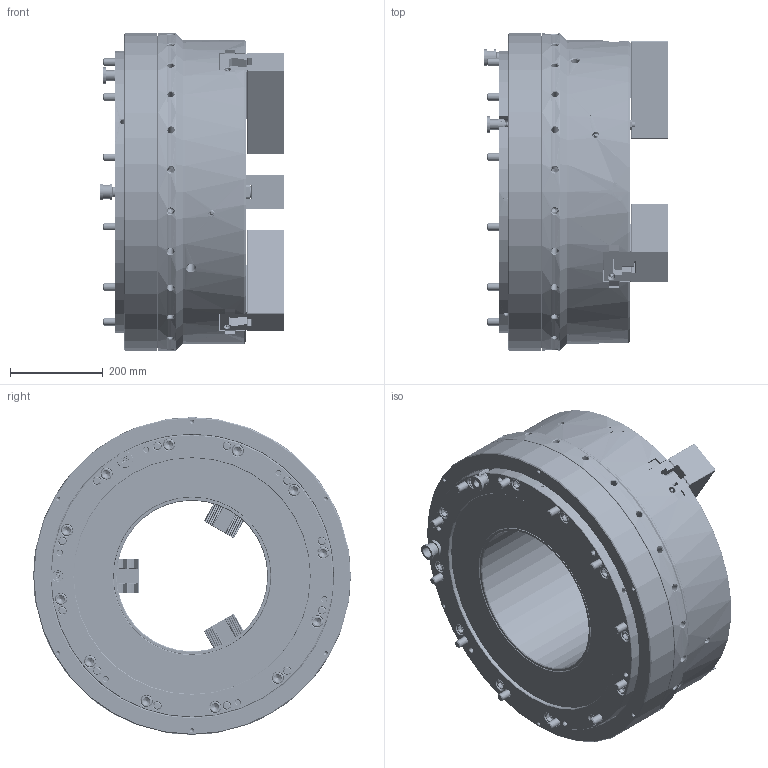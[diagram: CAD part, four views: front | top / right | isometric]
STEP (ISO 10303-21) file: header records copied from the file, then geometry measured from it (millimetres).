
FILE_DESCRIPTION (( 'STEP AP214' ), '1' );
FILE_NAME ('UPR650A325_HCL.STEP', '2025-12-26T01:02:55', ( '' ), ( '' ), 'SwSTEP 2.0', 'SolidWorks 2022', '' );
FILE_SCHEMA (( 'AUTOMOTIVE_DESIGN' ));
Length unit declared in the file: millimetre
Products named in the file (5): UPR650A325_HCL; 0030124060; 61P446153; 61P858712; UPR650A325_本体
Assembly tree (16 placements, depth 2):
  UPR650A325_HCL
    61P858712  x3
    61P446153  x6
    0030124060  x6
    UPR650A325_本体
Bounding box: 397.21 x 685 x 685 mm (x, y, z)
Volume: 75582779.6 mm3; surface area: 3369881.8 mm2
Topology: 17 solids, 37 shells, 11365 faces, 31589 edges, 20645 vertices
Faces by surface type: plane 6083, cylinder 3084, bspline 1045, cone 991, torus 150, sphere 12
Entity records: 333458 total; most frequent: CARTESIAN_POINT 113261, ORIENTED_EDGE 50602, DIRECTION 38205, EDGE_CURVE 25301, LINE 16631, VECTOR 16631, VERTEX_POINT 16592, AXIS2_PLACEMENT_3D 10787
